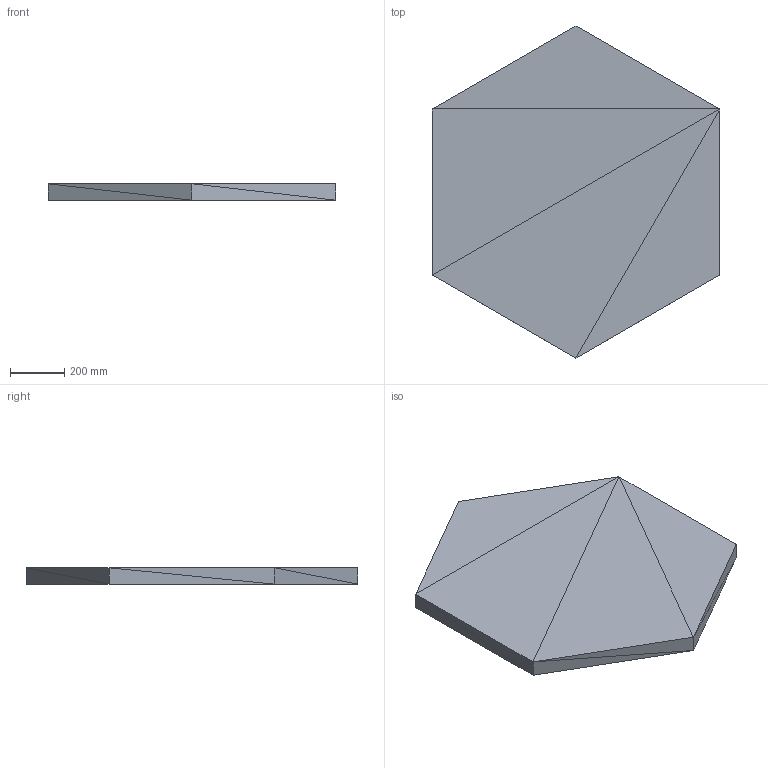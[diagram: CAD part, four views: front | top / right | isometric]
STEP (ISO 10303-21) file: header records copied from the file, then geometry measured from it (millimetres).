
FILE_DESCRIPTION(('ISINAC STEP AP214'),'2;1');
FILE_NAME('ISINAC_HEX.610_60mm_ADHESIVO','2026-05-03T10:49:19',('ISINAC'),('www.isinac.com'),'ISINAC BIM Generator 1.0','','');
FILE_SCHEMA(('AUTOMOTIVE_DESIGN'));
Length unit declared in the file: millimetre
Products named in the file (1): ISINAC_HEX.610_60mm_ADHESIVO
Bounding box: 1056.55 x 1220 x 60 mm (x, y, z)
Surface area: 2153088.3 mm2 (no closed solid volume)
Topology: 0 solids, 20 shells, 20 faces, 60 edges, 60 vertices
Faces by surface type: plane 20
Entity records: 233 total; most frequent: CARTESIAN_POINT 80, DIRECTION 40, POLY_LOOP 20, FACE_OUTER_BOUND 20, AXIS2_PLACEMENT_3D 20, PLANE 20, FACE_SURFACE 20, CLOSED_SHELL 1
